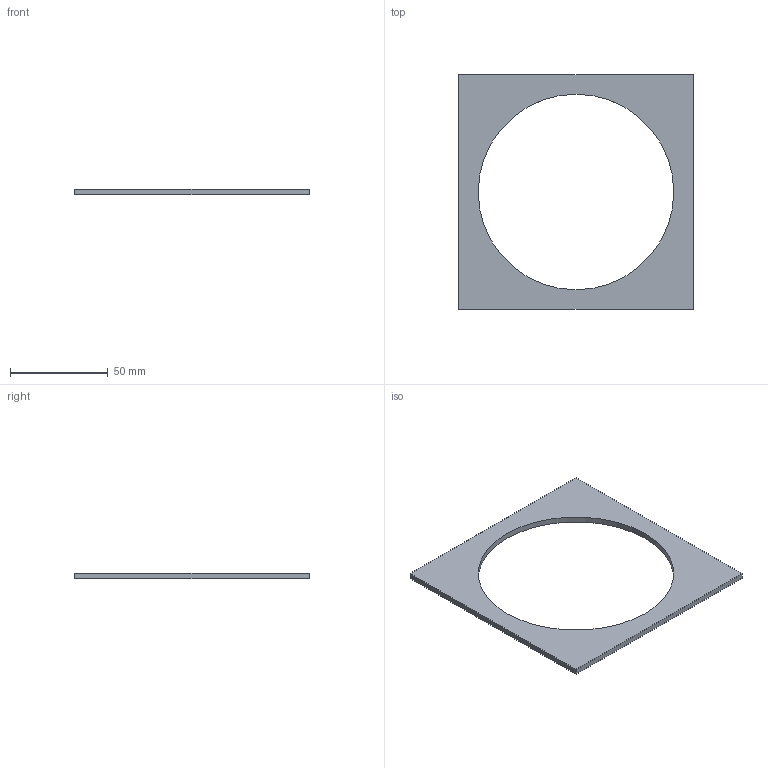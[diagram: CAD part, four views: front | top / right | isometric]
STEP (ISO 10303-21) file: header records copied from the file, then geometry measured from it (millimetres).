
FILE_DESCRIPTION(('Open CASCADE Model'),'2;1');
FILE_NAME('Open CASCADE Shape Model','2026-10-16T18:52:00',('Author'),( 'Open CASCADE'),'Open CASCADE STEP processor 7.8','Open CASCADE 7.8' ,'Unknown');
FILE_SCHEMA(('AUTOMOTIVE_DESIGN { 1 0 10303 214 1 1 1 1 }'));
Length unit declared in the file: millimetre
Products named in the file (1): Open CASCADE STEP translator 7.8 15
Bounding box: 120 x 120 x 3 mm (x, y, z)
Volume: 19638.1 mm3; surface area: 15474.5 mm2
Topology: 1 solids, 1 shells, 7 faces, 15 edges, 10 vertices
Faces by surface type: plane 6, cylinder 1
Full cylindrical faces by diameter (mm): 100 x1
Entity records: 406 total; most frequent: CARTESIAN_POINT 75, DIRECTION 61, LINE 41, VECTOR 41, ORIENTED_EDGE 30, PCURVE 30, DEFINITIONAL_REPRESENTATION 30, EDGE_CURVE 15
